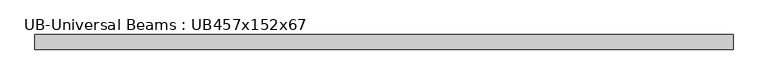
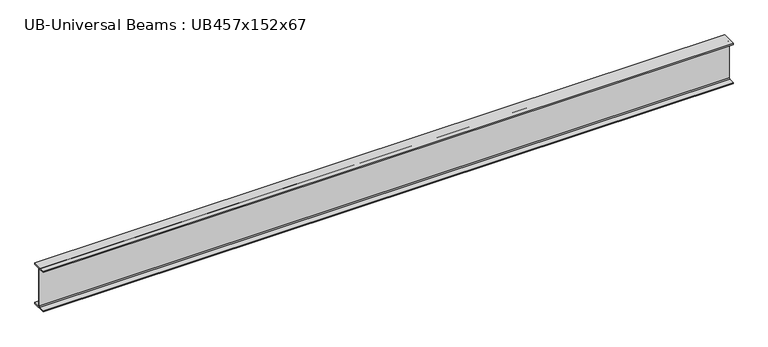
"""IFC4 building model written with IfcOpenShell, lengths in millimetres: beam geometry, UB-Universal Beams : UB457x152x67."""

import ifcopenshell
import ifcopenshell.guid

model = None  # the IFC model being written
_history = None  # IfcOwnerHistory: only IFC2X3 demands one
_inside = {}  # id of a spatial element -> (the spatial element, [elements in it])
_under = {}  # id of a project, library or spatial element -> (it, [spatial elements below it])
_declared = {}  # id of a project -> (the project, [libraries it declares])
_typed = {}  # id of a type object -> (the type object, [elements of that type])
_made_of = {}  # id of a material, layer set ... -> (it, [elements and type objects made of it])


def new_model(schema):
    """Start an empty IFC model of exactly this schema.

    Asked for "IFC4X3", IfcOpenShell would pick the latest addendum, in which some entities
    have other attributes; the version numbers below select the first issue.
    IFC2X3 requires an IfcOwnerHistory on every rooted entity: one is made here for all.
    """
    global model, _history
    if schema == "IFC4X3":
        model = ifcopenshell.file(schema_version=(4, 3, 0, 0))
    else:
        model = ifcopenshell.file(schema=schema)
    _inside.clear()
    _under.clear()
    _declared.clear()
    _typed.clear()
    _made_of.clear()
    _history = None
    if model.schema == "IFC2X3":
        org = make("IfcOrganization", Name="unknown")
        user = make(
            "IfcPersonAndOrganization",
            ThePerson=make("IfcPerson", FamilyName="unknown"),
            TheOrganization=org,
        )
        app = make(
            "IfcApplication",
            ApplicationDeveloper=org,
            Version="unknown",
            ApplicationFullName="unknown",
            ApplicationIdentifier="unknown",
        )
        _history = make(
            "IfcOwnerHistory",
            OwningUser=user,
            OwningApplication=app,
            ChangeAction="ADDED",
            CreationDate=0,
        )
    return model


def make(cls, **values):
    """One entity of the class cls with the attributes given. An attribute that is None is left unset."""
    return model.create_entity(
        cls, **{name: value for name, value in values.items() if value is not None}
    )


def rooted(cls, **values):
    """An entity with a GlobalId (a new one), such as an element, a storey or a relation."""
    return make(cls, GlobalId=ifcopenshell.guid.new(), OwnerHistory=_history, **values)


def si_unit(unit_type, name, prefix=None):
    """IfcSIUnit, for example si_unit("LENGTHUNIT", "METRE", prefix="MILLI")."""
    return make("IfcSIUnit", UnitType=unit_type, Prefix=prefix, Name=name)


def assignment(units):
    """IfcUnitAssignment: the units of a project."""
    return None if units is None else make("IfcUnitAssignment", Units=units)


def point(xyz):
    """IfcCartesianPoint."""
    return None if xyz is None else make("IfcCartesianPoint", Coordinates=xyz)


def direction(xyz):
    """IfcDirection."""
    return None if xyz is None else make("IfcDirection", DirectionRatios=xyz)


def frame(location, z_axis=None, x_axis=None):
    """IfcAxis2Placement3D, a coordinate frame: its origin and axes. An axis left out is left unset."""
    return make(
        "IfcAxis2Placement3D",
        Location=point(location),
        Axis=direction(z_axis),
        RefDirection=direction(x_axis),
    )


def frame_2d(location, x_axis=None):
    """IfcAxis2Placement2D, a coordinate frame in the plane: its origin and x axis."""
    return make(
        "IfcAxis2Placement2D", Location=point(location), RefDirection=direction(x_axis)
    )


def origin():
    """The frame at (0, 0, 0) with its axes left unset."""
    return frame((0.0, 0.0, 0.0))


def place(relative_to, where):
    """IfcLocalPlacement: puts the frame where relative to a parent placement (None: the world)."""
    return make(
        "IfcLocalPlacement", PlacementRelTo=relative_to, RelativePlacement=where
    )


def context(
    kind, dimensions, precision=None, world=None, true_north=None, identifier=None
):
    """IfcGeometricRepresentationContext, for example the 3D "Model" context."""
    return make(
        "IfcGeometricRepresentationContext",
        ContextIdentifier=identifier,
        ContextType=kind,
        CoordinateSpaceDimension=dimensions,
        Precision=precision,
        WorldCoordinateSystem=world,
        TrueNorth=true_north,
    )


def project(units=None, contexts=None):
    """IfcProject with its units and contexts."""
    return rooted(
        "IfcProject",
        Name="project",
        RepresentationContexts=contexts,
        UnitsInContext=assignment(units),
    )


def spatial(cls, under=None, at=None, **own):
    """A site, building, storey or space (cls), placed at a placement, below another one or the project."""
    s = rooted(cls, ObjectPlacement=at, **own)
    if under is not None:
        _under.setdefault(under.id(), (under, []))[1].append(s)
    return s


def polyline(points):
    """IfcPolyline through the points."""
    return make("IfcPolyline", Points=[point(p) for p in points])


def circle_curve(where, radius):
    """IfcCircle in the frame where."""
    return make("IfcCircle", Position=where, Radius=radius)


def trimmed(basis, trim1, trim2, sense, master):
    """IfcTrimmedCurve: the piece of a basis curve between two trims."""
    return make(
        "IfcTrimmedCurve",
        BasisCurve=basis,
        Trim1=trim1,
        Trim2=trim2,
        SenseAgreement=sense,
        MasterRepresentation=master,
    )


def segment(curve, same_sense, transition):
    """IfcCompositeCurveSegment."""
    return make(
        "IfcCompositeCurveSegment",
        Transition=transition,
        SameSense=same_sense,
        ParentCurve=curve,
    )


def composite_curve(segments, self_intersect=None):
    """IfcCompositeCurve: segments joined end to end."""
    return make("IfcCompositeCurve", Segments=segments, SelfIntersect=self_intersect)


def outline(outer, holes=None, kind="AREA"):
    """IfcArbitraryClosedProfileDef: a profile drawn as a closed curve; with holes, ...WithVoids."""
    if holes is None:
        return make("IfcArbitraryClosedProfileDef", ProfileType=kind, OuterCurve=outer)
    return make(
        "IfcArbitraryProfileDefWithVoids",
        ProfileType=kind,
        OuterCurve=outer,
        InnerCurves=holes,
    )


def extrude(swept, where, along, depth):
    """IfcExtrudedAreaSolid: the profile swept, set in the frame where, extruded along a direction by depth."""
    return make(
        "IfcExtrudedAreaSolid",
        SweptArea=swept,
        Position=where,
        ExtrudedDirection=direction(along),
        Depth=depth,
    )


def shape(context_of_items, identifier, shape_type, items):
    """IfcShapeRepresentation: the items that make up one representation, for example the "Body"."""
    return make(
        "IfcShapeRepresentation",
        ContextOfItems=context_of_items,
        RepresentationIdentifier=identifier,
        RepresentationType=shape_type,
        Items=items,
    )


def source(mapping_origin, context_of_items, identifier, shape_type, items):
    """IfcRepresentationMap: a shape defined once, which mapped items show again and again."""
    return make(
        "IfcRepresentationMap",
        MappingOrigin=mapping_origin,
        MappedRepresentation=shape(context_of_items, identifier, shape_type, items),
    )


def transform(
    local_origin,
    x_axis=None,
    y_axis=None,
    z_axis=None,
    scale=None,
    scale2=None,
    scale3=None,
    uniform=True,
):
    """IfcCartesianTransformationOperator3D, or its non-uniform kind. x_axis, y_axis, z_axis: its Axis1, 2, 3."""
    if uniform:
        return make(
            "IfcCartesianTransformationOperator3D",
            Axis1=direction(x_axis),
            Axis2=direction(y_axis),
            LocalOrigin=point(local_origin),
            Scale=scale,
            Axis3=direction(z_axis),
        )
    return make(
        "IfcCartesianTransformationOperator3DnonUniform",
        Axis1=direction(x_axis),
        Axis2=direction(y_axis),
        LocalOrigin=point(local_origin),
        Scale=scale,
        Axis3=direction(z_axis),
        Scale2=scale2,
        Scale3=scale3,
    )


def mapped(mapping_source, mapping_target):
    """IfcMappedItem: shows the shape of a source again, moved by a transform."""
    return make(
        "IfcMappedItem", MappingSource=mapping_source, MappingTarget=mapping_target
    )


def made_of(thing, what):
    """Note that an element or type object is made of a material, layer set ...; save() writes the relation."""
    if what is not None:
        _made_of.setdefault(what.id(), (what, []))[1].append(thing)
    return thing


def element(
    cls,
    number,
    at=None,
    inside=None,
    cuts=None,
    type_object=None,
    material=None,
    context=None,
    identifier="Body",
    shape_type=None,
    held_by="IfcProductDefinitionShape",
    body=None,
    shapes=None,
    **own,
):
    """One element of the class cls, such as IfcWall. Its Tag is "e" and its number.

    at: its placement. inside: the storey or other place that contains it. cuts: it is an
    opening in that element (IfcRelVoidsElement). A single representation is given by context,
    identifier, shape_type and body (its items); several are given by shapes. held_by: the class
    of the entity that holds the representations. save() writes the other relations.
    """
    e = rooted(cls, Tag="e%d" % number, ObjectPlacement=at, **own)
    if body is not None:
        shapes = [shape(context, identifier, shape_type, body)]
    if shapes is not None:
        e.Representation = make(held_by, Representations=shapes)
    if inside is not None:
        _inside.setdefault(inside.id(), (inside, []))[1].append(e)
    if cuts is not None:
        rooted(
            "IfcRelVoidsElement", RelatingBuildingElement=cuts, RelatedOpeningElement=e
        )
    if type_object is not None:
        _typed.setdefault(type_object.id(), (type_object, []))[1].append(e)
    return made_of(e, material)


def aggregate(whole, parts):
    """IfcRelAggregates: a whole, such as a stair, and the parts it consists of."""
    return rooted("IfcRelAggregates", RelatingObject=whole, RelatedObjects=parts)


def save(model, path):
    """Write the relations noted so far, then the file.

    IfcRelAggregates (storeys below a building ...), IfcRelContainedInSpatialStructure (elements
    in a storey), IfcRelDefinesByType, IfcRelAssociatesMaterial and IfcRelDeclares: one each for
    every whole, place, type object, material and project.
    """
    for whole, parts in _under.values():
        aggregate(whole, parts)
    for where, things in _inside.values():
        rooted(
            "IfcRelContainedInSpatialStructure",
            RelatedElements=things,
            RelatingStructure=where,
        )
    for kind, things in _typed.values():
        rooted("IfcRelDefinesByType", RelatedObjects=things, RelatingType=kind)
    for what, things in _made_of.values():
        rooted("IfcRelAssociatesMaterial", RelatedObjects=things, RelatingMaterial=what)
    for by, libraries in _declared.values():
        rooted("IfcRelDeclares", RelatingContext=by, RelatedDefinitions=libraries)
    model.write(path)


def ub_universal_beams_ub457x152x67_86edb436(model_context):
    return source(origin(), model_context, "Body", "SweptSolid", [
        extrude(outline(composite_curve([segment(polyline([(76.9, -214.0), (76.9, -229.0), (-76.9, -229.0), (-76.9, -214.0), (-14.7, -214.0)]), True, "CONTINUOUS"), segment(trimmed(circle_curve(frame_2d((-14.7, -203.8)), 10.2), [point((-14.7, -214.0))], [point((-4.5, -203.8))], True, "CARTESIAN"), True, "CONTINUOUS"), segment(polyline([(-4.5, -203.8), (-4.5, 203.8)]), True, "CONTINUOUS"), segment(trimmed(circle_curve(frame_2d((-14.7, 203.8)), 10.2), [point((-4.5, 203.8))], [point((-14.7, 214.0))], True, "CARTESIAN"), True, "CONTINUOUS"), segment(polyline([(-14.7, 214.0), (-76.9, 214.0), (-76.9, 229.0), (76.9, 229.0), (76.9, 214.0), (14.7, 214.0)]), True, "CONTINUOUS"), segment(trimmed(circle_curve(frame_2d((14.7, 203.8)), 10.2), [point((14.7, 214.0))], [point((4.5, 203.8))], True, "CARTESIAN"), True, "CONTINUOUS"), segment(polyline([(4.5, 203.8), (4.5, -203.8)]), True, "CONTINUOUS"), segment(trimmed(circle_curve(frame_2d((14.7, -203.8)), 10.2), [point((4.5, -203.8))], [point((14.7, -214.0))], True, "CARTESIAN"), True, "CONTINUOUS"), segment(polyline([(14.7, -214.0), (76.9, -214.0)]), True, "CONTINUOUS")], self_intersect=False)), frame((-3674.8, 0.0, 0.0), z_axis=(1.0, 0.0, 0.0), x_axis=(0.0, 1.0, 0.0)), (0.0, 0.0, 1.0), 7342.6),
    ])


if __name__ == "__main__":
    model = new_model("IFC4")
    model_context = context("Model", 3, world=origin())
    ifc_project = project(units=[si_unit("LENGTHUNIT", "METRE", prefix="MILLI")], contexts=[model_context])
    site = spatial("IfcSite", under=ifc_project)
    building = spatial("IfcBuilding", under=site)
    placement = place(None, origin())
    ub_universal_beams_ub457x152x67_shape = ub_universal_beams_ub457x152x67_86edb436(model_context)
    element("IfcBeam", 1, ObjectType="UB-Universal Beams : UB457x152x67", at=placement, inside=building, context=model_context, shape_type="MappedRepresentation", body=[
        mapped(ub_universal_beams_ub457x152x67_shape, transform((0.0, 0.0, 0.0), x_axis=(1.0, 0.0, 0.0), y_axis=(0.0, 1.0, 0.0), z_axis=(0.0, 0.0, 1.0))),
    ])
    save(model, "model.ifc")
